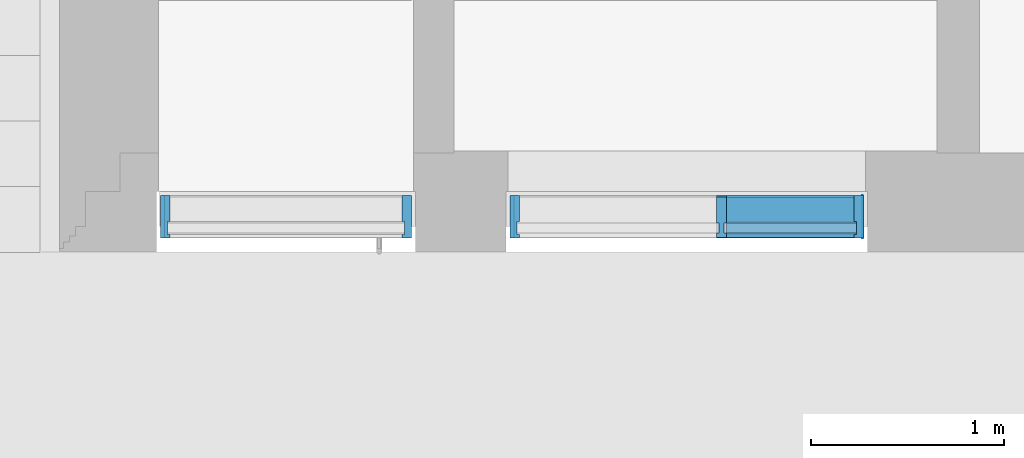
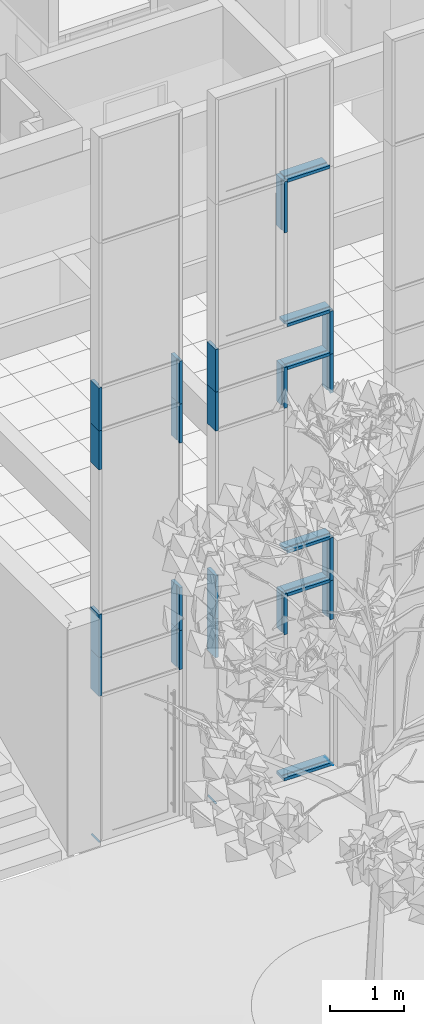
# One storey, part 29 of 246: 28 members, 2 elements without a shape of their own.
"""IFC2X3 building model written with IfcOpenShell, lengths in millimetres."""

import ifcopenshell
import ifcopenshell.guid

model = None  # the IFC model being written
_history = None  # IfcOwnerHistory: only IFC2X3 demands one
_inside = {}  # id of a spatial element -> (the spatial element, [elements in it])
_under = {}  # id of a project, library or spatial element -> (it, [spatial elements below it])
_declared = {}  # id of a project -> (the project, [libraries it declares])
_typed = {}  # id of a type object -> (the type object, [elements of that type])
_made_of = {}  # id of a material, layer set ... -> (it, [elements and type objects made of it])


def new_model(schema):
    """Start an empty IFC model of exactly this schema.

    Asked for "IFC4X3", IfcOpenShell would pick the latest addendum, in which some entities
    have other attributes; the version numbers below select the first issue.
    IFC2X3 requires an IfcOwnerHistory on every rooted entity: one is made here for all.
    """
    global model, _history
    if schema == "IFC4X3":
        model = ifcopenshell.file(schema_version=(4, 3, 0, 0))
    else:
        model = ifcopenshell.file(schema=schema)
    _inside.clear()
    _under.clear()
    _declared.clear()
    _typed.clear()
    _made_of.clear()
    _history = None
    if model.schema == "IFC2X3":
        org = make("IfcOrganization", Name="unknown")
        user = make(
            "IfcPersonAndOrganization",
            ThePerson=make("IfcPerson", FamilyName="unknown"),
            TheOrganization=org,
        )
        app = make(
            "IfcApplication",
            ApplicationDeveloper=org,
            Version="unknown",
            ApplicationFullName="unknown",
            ApplicationIdentifier="unknown",
        )
        _history = make(
            "IfcOwnerHistory",
            OwningUser=user,
            OwningApplication=app,
            ChangeAction="ADDED",
            CreationDate=0,
        )
    return model


def make(cls, **values):
    """One entity of the class cls with the attributes given. An attribute that is None is left unset."""
    return model.create_entity(
        cls, **{name: value for name, value in values.items() if value is not None}
    )


def entity(cls, *values):
    """Any entity or typed value of the class cls, its attributes in the order of the schema. None: left unset."""
    e = model.create_entity(cls)
    for i, value in enumerate(values):
        if value is not None:
            e[i] = value
    return e


def rooted(cls, **values):
    """An entity with a GlobalId (a new one), such as an element, a storey or a relation."""
    return make(cls, GlobalId=ifcopenshell.guid.new(), OwnerHistory=_history, **values)


def si_unit(unit_type, name, prefix=None):
    """IfcSIUnit, for example si_unit("LENGTHUNIT", "METRE", prefix="MILLI")."""
    return make("IfcSIUnit", UnitType=unit_type, Prefix=prefix, Name=name)


def converted_unit(unit_type, name, factor, base, dimensions=None, offset=None):
    """IfcConversionBasedUnit, such as the inch: factor (a typed value) times the base unit."""
    return make(
        "IfcConversionBasedUnit"
        if offset is None
        else "IfcConversionBasedUnitWithOffset",
        ConversionOffset=offset,
        Dimensions=None
        if dimensions is None
        else entity("IfcDimensionalExponents", *dimensions),
        UnitType=unit_type,
        Name=name,
        ConversionFactor=make(
            "IfcMeasureWithUnit", ValueComponent=factor, UnitComponent=base
        ),
    )


def derived_unit(unit_type, elements):
    """IfcDerivedUnit: a product of units, each with its exponent."""
    return make(
        "IfcDerivedUnit",
        Elements=[
            make("IfcDerivedUnitElement", Unit=unit, Exponent=power)
            for unit, power in elements
        ],
        UnitType=unit_type,
    )


def money_unit(currency):
    """IfcMonetaryUnit."""
    return make("IfcMonetaryUnit", Currency=currency)


def assignment(units):
    """IfcUnitAssignment: the units of a project."""
    return None if units is None else make("IfcUnitAssignment", Units=units)


def point(xyz):
    """IfcCartesianPoint."""
    return None if xyz is None else make("IfcCartesianPoint", Coordinates=xyz)


def direction(xyz):
    """IfcDirection."""
    return None if xyz is None else make("IfcDirection", DirectionRatios=xyz)


def frame(location, z_axis=None, x_axis=None):
    """IfcAxis2Placement3D, a coordinate frame: its origin and axes. An axis left out is left unset."""
    return make(
        "IfcAxis2Placement3D",
        Location=point(location),
        Axis=direction(z_axis),
        RefDirection=direction(x_axis),
    )


def origin_with_axes():
    """The frame at (0, 0, 0) with the z axis (0, 0, 1) and the x axis (1, 0, 0) written out."""
    return frame((0.0, 0.0, 0.0), z_axis=(0.0, 0.0, 1.0), x_axis=(1.0, 0.0, 0.0))


def place(relative_to, where):
    """IfcLocalPlacement: puts the frame where relative to a parent placement (None: the world)."""
    return make(
        "IfcLocalPlacement", PlacementRelTo=relative_to, RelativePlacement=where
    )


def context(
    kind, dimensions, precision=None, world=None, true_north=None, identifier=None
):
    """IfcGeometricRepresentationContext, for example the 3D "Model" context."""
    return make(
        "IfcGeometricRepresentationContext",
        ContextIdentifier=identifier,
        ContextType=kind,
        CoordinateSpaceDimension=dimensions,
        Precision=precision,
        WorldCoordinateSystem=world,
        TrueNorth=true_north,
    )


def subcontext(parent, identifier, kind, view, scale=None):
    """IfcGeometricRepresentationSubContext, for example "Body" below "Model"."""
    return make(
        "IfcGeometricRepresentationSubContext",
        ContextIdentifier=identifier,
        ContextType=kind,
        ParentContext=parent,
        TargetScale=scale,
        TargetView=view,
    )


def project(units=None, contexts=None):
    """IfcProject with its units and contexts."""
    return rooted(
        "IfcProject",
        Name="project",
        RepresentationContexts=contexts,
        UnitsInContext=assignment(units),
    )


def spatial(cls, under=None, at=None, **own):
    """A site, building, storey or space (cls), placed at a placement, below another one or the project."""
    s = rooted(cls, ObjectPlacement=at, **own)
    if under is not None:
        _under.setdefault(under.id(), (under, []))[1].append(s)
    return s


def faces_of(points, faces, orient=None, outer=None):
    """IfcFace entities. A face is a list of loops; a loop is a list of indices into points, from 0.

    orient and outer hold one flag for each loop. By default every Orientation is true, the
    first loop of a face is its IfcFaceOuterBound and the others are IfcFaceBound.
    """
    made = []
    for i, loops in enumerate(faces):
        bounds = []
        for j, loop in enumerate(loops):
            is_outer = j == 0 if outer is None else outer[i][j]
            bounds.append(
                make(
                    "IfcFaceOuterBound" if is_outer else "IfcFaceBound",
                    Bound=make("IfcPolyLoop", Polygon=[points[k] for k in loop]),
                    Orientation=True if orient is None else orient[i][j],
                )
            )
        made.append(make("IfcFace", Bounds=bounds))
    return made


def faceted_brep(points, faces, orient=None, outer=None, voids=None):
    """IfcFacetedBrep: a solid bounded by flat faces; with voids (closed shells), ...WithVoids."""
    shared = [point(p) for p in points]
    hull = make("IfcClosedShell", CfsFaces=faces_of(shared, faces, orient, outer))
    if voids is None:
        return make("IfcFacetedBrep", Outer=hull)
    return make(
        "IfcFacetedBrepWithVoids",
        Outer=hull,
        Voids=[
            make(cls, CfsFaces=faces_of(shared, fs, o, b)) for cls, fs, o, b in voids
        ],
    )


def shape(context_of_items, identifier, shape_type, items):
    """IfcShapeRepresentation: the items that make up one representation, for example the "Body"."""
    return make(
        "IfcShapeRepresentation",
        ContextOfItems=context_of_items,
        RepresentationIdentifier=identifier,
        RepresentationType=shape_type,
        Items=items,
    )


def source(mapping_origin, context_of_items, identifier, shape_type, items):
    """IfcRepresentationMap: a shape defined once, which mapped items show again and again."""
    return make(
        "IfcRepresentationMap",
        MappingOrigin=mapping_origin,
        MappedRepresentation=shape(context_of_items, identifier, shape_type, items),
    )


def transform(
    local_origin,
    x_axis=None,
    y_axis=None,
    z_axis=None,
    scale=None,
    scale2=None,
    scale3=None,
    uniform=True,
):
    """IfcCartesianTransformationOperator3D, or its non-uniform kind. x_axis, y_axis, z_axis: its Axis1, 2, 3."""
    if uniform:
        return make(
            "IfcCartesianTransformationOperator3D",
            Axis1=direction(x_axis),
            Axis2=direction(y_axis),
            LocalOrigin=point(local_origin),
            Scale=scale,
            Axis3=direction(z_axis),
        )
    return make(
        "IfcCartesianTransformationOperator3DnonUniform",
        Axis1=direction(x_axis),
        Axis2=direction(y_axis),
        LocalOrigin=point(local_origin),
        Scale=scale,
        Axis3=direction(z_axis),
        Scale2=scale2,
        Scale3=scale3,
    )


def mapped(mapping_source, mapping_target):
    """IfcMappedItem: shows the shape of a source again, moved by a transform."""
    return make(
        "IfcMappedItem", MappingSource=mapping_source, MappingTarget=mapping_target
    )


def material(Name=None, Category=None):
    """IfcMaterial."""
    return make("IfcMaterial", Name=Name, Category=Category)


def made_of(thing, what):
    """Note that an element or type object is made of a material, layer set ...; save() writes the relation."""
    if what is not None:
        _made_of.setdefault(what.id(), (what, []))[1].append(thing)
    return thing


def type_object(cls, material=None, **own):
    """A type object (cls), such as IfcWallType, which elements share."""
    return made_of(rooted(cls, **own), material)


def element(
    cls,
    number,
    at=None,
    inside=None,
    cuts=None,
    type_object=None,
    material=None,
    context=None,
    identifier="Body",
    shape_type=None,
    held_by="IfcProductDefinitionShape",
    body=None,
    shapes=None,
    **own,
):
    """One element of the class cls, such as IfcWall. Its Tag is "e" and its number.

    at: its placement. inside: the storey or other place that contains it. cuts: it is an
    opening in that element (IfcRelVoidsElement). A single representation is given by context,
    identifier, shape_type and body (its items); several are given by shapes. held_by: the class
    of the entity that holds the representations. save() writes the other relations.
    """
    e = rooted(cls, Tag="e%d" % number, ObjectPlacement=at, **own)
    if body is not None:
        shapes = [shape(context, identifier, shape_type, body)]
    if shapes is not None:
        e.Representation = make(held_by, Representations=shapes)
    if inside is not None:
        _inside.setdefault(inside.id(), (inside, []))[1].append(e)
    if cuts is not None:
        rooted(
            "IfcRelVoidsElement", RelatingBuildingElement=cuts, RelatedOpeningElement=e
        )
    if type_object is not None:
        _typed.setdefault(type_object.id(), (type_object, []))[1].append(e)
    return made_of(e, material)


def aggregate(whole, parts):
    """IfcRelAggregates: a whole, such as a stair, and the parts it consists of."""
    return rooted("IfcRelAggregates", RelatingObject=whole, RelatedObjects=parts)


def save(model, path):
    """Write the relations noted so far, then the file.

    IfcRelAggregates (storeys below a building ...), IfcRelContainedInSpatialStructure (elements
    in a storey), IfcRelDefinesByType, IfcRelAssociatesMaterial and IfcRelDeclares: one each for
    every whole, place, type object, material and project.
    """
    for whole, parts in _under.values():
        aggregate(whole, parts)
    for where, things in _inside.values():
        rooted(
            "IfcRelContainedInSpatialStructure",
            RelatedElements=things,
            RelatingStructure=where,
        )
    for kind, things in _typed.values():
        rooted("IfcRelDefinesByType", RelatedObjects=things, RelatingType=kind)
    for what, things in _made_of.values():
        rooted("IfcRelAssociatesMaterial", RelatedObjects=things, RelatingMaterial=what)
    for by, libraries in _declared.values():
        rooted("IfcRelDeclares", RelatingContext=by, RelatedDefinitions=libraries)
    model.write(path)


model = new_model("IFC2X3")

# Units and contexts
model_context = context("Model", 3, precision=0.01, world=origin_with_axes(), true_north=direction((0.0, 1.0)))
body_context = subcontext(model_context, "Body", "Model", "MODEL_VIEW")
ifc_project = project(units=[si_unit("LENGTHUNIT", "METRE", prefix="MILLI"), si_unit("AREAUNIT", "SQUARE_METRE"), si_unit("VOLUMEUNIT", "CUBIC_METRE"), converted_unit("PLANEANGLEUNIT", "DEGREE", entity("IfcPlaneAngleMeasure", 0.0174532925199), si_unit("PLANEANGLEUNIT", "RADIAN"), dimensions=[0, 0, 0, 0, 0, 0, 0]), si_unit("SOLIDANGLEUNIT", "STERADIAN"), money_unit("EUR"), converted_unit("TIMEUNIT", "Year", entity("IfcTimeMeasure", 31556926.0), si_unit("TIMEUNIT", "SECOND"), dimensions=[0, 0, 1, 0, 0, 0, 0]), si_unit("MASSUNIT", "GRAM", prefix="KILO"), si_unit("THERMODYNAMICTEMPERATUREUNIT", "DEGREE_CELSIUS"), si_unit("LUMINOUSINTENSITYUNIT", "LUMEN"), si_unit("ENERGYUNIT", "JOULE", prefix="MEGA"), derived_unit("THERMALCONDUCTANCEUNIT", [(si_unit("POWERUNIT", "WATT"), 1), (si_unit("LENGTHUNIT", "METRE"), -1), (si_unit("THERMODYNAMICTEMPERATUREUNIT", "KELVIN"), -1)]), derived_unit("SPECIFICHEATCAPACITYUNIT", [(si_unit("ENERGYUNIT", "JOULE"), 1), (si_unit("MASSUNIT", "GRAM", prefix="KILO"), -1), (si_unit("THERMODYNAMICTEMPERATUREUNIT", "KELVIN"), -1)]), derived_unit("MASSDENSITYUNIT", [(si_unit("MASSUNIT", "GRAM", prefix="KILO"), 1), (si_unit("VOLUMEUNIT", "CUBIC_METRE"), -1)])], contexts=[model_context])

# Site, building, storey
site_placement = place(None, origin_with_axes())
site = spatial("IfcSite", under=ifc_project, at=site_placement, Name="L.Koidula tn 11b", CompositionType="ELEMENT")
building_placement = place(site_placement, origin_with_axes())
building = spatial("IfcBuilding", under=site, at=building_placement, Name="Rakvere Riigigümnaasium", CompositionType="ELEMENT")
storey_placement = place(building_placement, origin_with_axes())
storey = spatial("IfcBuildingStorey", under=building, at=storey_placement, Name="1.korrus 0,00", CompositionType="ELEMENT", Elevation=0.0)

# Curtain wall, members
curtain_wall_type = type_object("IfcCurtainWallType", Name="Curtain Wall Type", PredefinedType="NOTDEFINED")
curtain_wall_1_placement = place(storey_placement, frame((35950.585925, 5111.45334637, -1.61944652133e-05), z_axis=(0.0, 0.0, 1.0), x_axis=(1.0, 0.0, 0.0)))
curtain_wall_1 = element("IfcCurtainWall", 1, at=curtain_wall_1_placement, inside=storey, type_object=curtain_wall_type, Name="KLF-05-1A")
ifc_material = material(Name="Alumiiniumprofiil (RAL 7021)")
member_type_1 = type_object("IfcMemberType", Name="Boundary Frame 50 x 222", PredefinedType="MULLION")
shared_shape_1 = source(origin_with_axes(), body_context, "Body", "Brep", [
    faceted_brep([(37.0, -32.5, 705.000000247), (37.0, 32.5, 705.000000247), (50.0, 32.5, 705.000000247), (50.0, 53.0, 705.000000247), (0.0, 53.0, 705.000000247), (0.0, -169.0, 705.000000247), (50.0, -169.0, 705.000000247), (50.0, -32.5, 705.000000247), (37.0, -32.5, 0.0), (37.0, 32.5, 0.0), (50.0, 32.5, 0.0), (50.0, 53.0, 0.0), (0.0, 53.0, 0.0), (0.0, -169.0, 0.0), (50.0, -169.0, 0.0), (50.0, -32.5, 0.0)], [[[0, 1, 2, 3, 4, 5, 6, 7]], [[1, 0, 8, 9]], [[10, 2, 1, 9]], [[2, 10, 11, 3]], [[12, 4, 3, 11]], [[13, 5, 4, 12]], [[14, 6, 5, 13]], [[15, 7, 6, 14]], [[0, 7, 15, 8]], [[8, 15, 14, 13, 12, 11, 10, 9]]]),
])
member_1_placement = place(curtain_wall_1_placement, frame((859.6355553, 0.0, 6760.0), z_axis=(6.87354954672e-08, 0.0, 1.0), x_axis=(-1.0, 0.0, 6.87354954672e-08)))
member_1 = element("IfcMember", 2, at=member_1_placement, type_object=member_type_1, material=ifc_material, Name="KLF-05-4A-Profiilid", ObjectType="MULLION", context=body_context, shape_type="MappedRepresentation", body=[
    mapped(shared_shape_1, transform((0.0, 0.0, 0.0))),
])
member_2_placement = place(curtain_wall_1_placement, frame((859.6355553, 0.0, 3040.0), z_axis=(0.0, 0.0, 1.0), x_axis=(-1.0, 0.0, 0.0)))
member_2 = element("IfcMember", 3, at=member_2_placement, type_object=member_type_1, material=ifc_material, Name="KLF-05-1A-Profiilid", ObjectType="MULLION", context=body_context, shape_type="MappedRepresentation", body=[
    mapped(shared_shape_1, transform((0.0, 0.0, 0.0))),
])

curtain_wall_2_placement = place(storey_placement, frame((38273.9956035, 5111.45334637, -8.09717250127e-06), z_axis=(0.0, 0.0, 1.0), x_axis=(1.0, 0.0, 0.0)))
curtain_wall_2 = element("IfcCurtainWall", 4, at=curtain_wall_2_placement, inside=storey, type_object=curtain_wall_type, Name="KLF-05-2A")
member_3_placement = place(curtain_wall_2_placement, frame((876.000206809, 0.0, 6760.0), z_axis=(0.0, 0.0, 1.0), x_axis=(-1.0, 0.0, 0.0)))
member_3 = element("IfcMember", 5, at=member_3_placement, type_object=member_type_1, material=ifc_material, Name="KLF-05-7A-Profiilid", ObjectType="MULLION", context=body_context, shape_type="MappedRepresentation", body=[
    mapped(shared_shape_1, transform((0.0, 0.0, 0.0))),
])
member_4_placement = place(curtain_wall_2_placement, frame((876.000206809, 0.0, 3040.0), z_axis=(0.0, 0.0, 1.0), x_axis=(-1.0, 0.0, 0.0)))
member_4 = element("IfcMember", 6, at=member_4_placement, type_object=member_type_1, material=ifc_material, Name="KLF-05-4A-Profiilid", ObjectType="MULLION", context=body_context, shape_type="MappedRepresentation", body=[
    mapped(shared_shape_1, transform((0.0, 0.0, 0.0))),
])

# Member
shared_shape_2 = source(origin_with_axes(), body_context, "Body", "Brep", [
    faceted_brep([(37.0, -32.5, 640.0), (37.0, 32.5, 640.0), (50.0, 32.5, 640.0), (50.0, 53.0, 640.0), (0.0, 53.0, 640.0), (0.0, -169.0, 640.0), (50.0, -169.0, 640.0), (50.0, -32.5, 640.0), (37.0, -32.5, 0.0), (37.0, 32.5, 0.0), (50.0, 32.5, 0.0), (50.0, 53.0, 0.0), (0.0, 53.0, 0.0), (0.0, -169.0, 0.0), (50.0, -169.0, 0.0), (50.0, -32.5, 0.0)], [[[0, 1, 2, 3, 4, 5, 6, 7]], [[1, 0, 8, 9]], [[10, 2, 1, 9]], [[2, 10, 11, 3]], [[12, 4, 3, 11]], [[13, 5, 4, 12]], [[14, 6, 5, 13]], [[15, 7, 6, 14]], [[0, 7, 15, 8]], [[8, 15, 14, 13, 12, 11, 10, 9]]]),
])
member_5_placement = place(curtain_wall_1_placement, frame((859.6355553, 0.0, 6120.0), z_axis=(0.0, 0.0, 1.0), x_axis=(-1.0, 0.0, 0.0)))
member_5 = element("IfcMember", 7, at=member_5_placement, type_object=member_type_1, material=ifc_material, Name="KLF-05-3A-Profiilid", ObjectType="MULLION", context=body_context, shape_type="MappedRepresentation", body=[
    mapped(shared_shape_2, transform((0.0, 0.0, 0.0))),
])

member_6_placement = place(curtain_wall_1_placement, frame((859.6355553, 0.0, 2400.0), z_axis=(0.0, 0.0, 1.0), x_axis=(-1.0, 0.0, 0.0)))
member_6 = element("IfcMember", 8, at=member_6_placement, type_object=member_type_1, material=ifc_material, Name="KLF-05-0A-Profiilid", ObjectType="MULLION", context=body_context, shape_type="MappedRepresentation", body=[
    mapped(shared_shape_2, transform((0.0, 0.0, 0.0))),
])

member_7_placement = place(curtain_wall_2_placement, frame((876.000206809, 0.0, 6120.0), z_axis=(0.0, 0.0, 1.0), x_axis=(-1.0, 0.0, 0.0)))
member_7 = element("IfcMember", 9, at=member_7_placement, type_object=member_type_1, material=ifc_material, Name="KLF-05-6A-Profiilid", ObjectType="MULLION", context=body_context, shape_type="MappedRepresentation", body=[
    mapped(shared_shape_2, transform((0.0, 0.0, 0.0))),
])

member_8_placement = place(curtain_wall_2_placement, frame((876.000206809, 0.0, 2400.0), z_axis=(0.0, 0.0, 1.0), x_axis=(-1.0, 0.0, 0.0)))
member_8 = element("IfcMember", 10, at=member_8_placement, type_object=member_type_1, material=ifc_material, Name="KLF-05-3A-Profiilid", ObjectType="MULLION", context=body_context, shape_type="MappedRepresentation", body=[
    mapped(shared_shape_2, transform((0.0, 0.0, 0.0))),
])

shared_shape_3 = source(origin_with_axes(), body_context, "Body", "Brep", [
    faceted_brep([(-37.0, -32.5, 705.0), (-50.0, -32.5, 705.0), (-50.0, -169.0, 705.0), (0.0, -169.0, 705.0), (0.0, 53.0, 705.0), (-50.0, 53.0, 705.0), (-50.0, 32.5, 705.0), (-37.0, 32.5, 705.0), (-37.0, -32.5, 0.0), (-50.0, -32.5, 0.0), (-50.0, -169.0, 0.0), (0.0, -169.0, 0.0), (0.0, 53.0, 0.0), (-50.0, 53.0, 0.0), (-50.0, 32.5, 0.0), (-37.0, 32.5, 0.0)], [[[0, 1, 2, 3, 4, 5, 6, 7]], [[0, 8, 9, 1]], [[9, 10, 2, 1]], [[10, 11, 3, 2]], [[11, 12, 4, 3]], [[12, 13, 5, 4]], [[6, 5, 13, 14]], [[14, 15, 7, 6]], [[7, 15, 8, 0]], [[8, 15, 14, 13, 12, 11, 10, 9]]]),
])
member_9_placement = place(curtain_wall_1_placement, frame((-440.585924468, 0.0, 6760.0), z_axis=(0.0, 0.0, 1.0), x_axis=(-1.0, 0.0, 0.0)))
member_9 = element("IfcMember", 11, at=member_9_placement, type_object=member_type_1, material=ifc_material, Name="KLF-05-0A-Profiilid", ObjectType="MULLION", context=body_context, shape_type="MappedRepresentation", body=[
    mapped(shared_shape_3, transform((0.0, 0.0, 0.0))),
])

member_10_placement = place(curtain_wall_1_placement, frame((-440.585924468, 0.0, 3040.0), z_axis=(0.0, 0.0, 1.0), x_axis=(-1.0, 0.0, 0.0)))
member_10 = element("IfcMember", 12, at=member_10_placement, type_object=member_type_1, material=ifc_material, Name="KLF-05-3A-Profiilid", ObjectType="MULLION", context=body_context, shape_type="MappedRepresentation", body=[
    mapped(shared_shape_3, transform((0.0, 0.0, 0.0))),
])

member_11_placement = place(curtain_wall_2_placement, frame((-954.000087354, 0.0, 3040.0), z_axis=(0.0, 0.0, 1.0), x_axis=(-1.0, 0.0, 0.0)))
member_11 = element("IfcMember", 13, at=member_11_placement, type_object=member_type_1, material=ifc_material, Name="KLF-05-7A-Profiilid", ObjectType="MULLION", context=body_context, shape_type="MappedRepresentation", body=[
    mapped(shared_shape_3, transform((0.0, 0.0, 0.0))),
])

member_12_placement = place(curtain_wall_2_placement, frame((-954.000087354, 0.0, 6760.0), z_axis=(0.0, 0.0, 1.0), x_axis=(-1.0, 0.0, 0.0)))
member_12 = element("IfcMember", 14, at=member_12_placement, type_object=member_type_1, material=ifc_material, Name="KLF-05-4A-Profiilid", ObjectType="MULLION", context=body_context, shape_type="MappedRepresentation", body=[
    mapped(shared_shape_3, transform((0.0, 0.0, 0.0))),
])

shared_shape_4 = source(origin_with_axes(), body_context, "Body", "Brep", [
    faceted_brep([(-37.0, -32.5, 640.0), (-50.0, -32.5, 640.0), (-50.0, -169.0, 640.0), (0.0, -169.0, 640.0), (0.0, 53.0, 640.0), (-50.0, 53.0, 640.0), (-50.0, 32.5, 640.0), (-37.0, 32.5, 640.0), (-37.0, -32.5, 0.0), (-50.0, -32.5, 0.0), (-50.0, -169.0, 0.0), (0.0, -169.0, 0.0), (0.0, 53.0, 0.0), (-50.0, 53.0, 0.0), (-50.0, 32.5, 0.0), (-37.0, 32.5, 0.0)], [[[0, 1, 2, 3, 4, 5, 6, 7]], [[0, 8, 9, 1]], [[9, 10, 2, 1]], [[10, 11, 3, 2]], [[11, 12, 4, 3]], [[12, 13, 5, 4]], [[6, 5, 13, 14]], [[14, 15, 7, 6]], [[7, 15, 8, 0]], [[8, 15, 14, 13, 12, 11, 10, 9]]]),
])
member_13_placement = place(curtain_wall_1_placement, frame((-440.585924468, 0.0, 6120.0), z_axis=(0.0, 0.0, 1.0), x_axis=(-1.0, 0.0, 0.0)))
member_13 = element("IfcMember", 15, at=member_13_placement, type_object=member_type_1, material=ifc_material, Name="KLF-05-1A-Profiilid", ObjectType="MULLION", context=body_context, shape_type="MappedRepresentation", body=[
    mapped(shared_shape_4, transform((0.0, 0.0, 0.0))),
])

member_14_placement = place(curtain_wall_1_placement, frame((-440.585924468, 0.0, 2400.0), z_axis=(0.0, 0.0, 1.0), x_axis=(-1.0, 0.0, 0.0)))
member_14 = element("IfcMember", 16, at=member_14_placement, type_object=member_type_1, material=ifc_material, Name="KLF-05-4A-Profiilid", ObjectType="MULLION", context=body_context, shape_type="MappedRepresentation", body=[
    mapped(shared_shape_4, transform((0.0, 0.0, 0.0))),
])

member_15_placement = place(curtain_wall_2_placement, frame((-954.000087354, 0.0, 2400.0), z_axis=(0.0, 0.0, 1.0), x_axis=(-1.0, 0.0, 0.0)))
member_15 = element("IfcMember", 17, at=member_15_placement, type_object=member_type_1, material=ifc_material, Name="KLF-05-8A-Profiilid", ObjectType="MULLION", context=body_context, shape_type="MappedRepresentation", body=[
    mapped(shared_shape_4, transform((0.0, 0.0, 0.0))),
])

member_16_placement = place(curtain_wall_2_placement, frame((-954.000087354, 0.0, 6120.0), z_axis=(0.0, 0.0, 1.0), x_axis=(-1.0, 0.0, 0.0)))
member_16 = element("IfcMember", 18, at=member_16_placement, type_object=member_type_1, material=ifc_material, Name="KLF-05-5A-Profiilid", ObjectType="MULLION", context=body_context, shape_type="MappedRepresentation", body=[
    mapped(shared_shape_4, transform((0.0, 0.0, 0.0))),
])

member_type_2 = type_object("IfcMemberType", Name="50 x 208", PredefinedType="MULLION")
shared_shape_5 = source(origin_with_axes(), body_context, "Body", "Brep", [
    faceted_brep([(-12.0, -27.0, 730.000256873), (-25.0, -27.0, 730.000256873), (-25.0, -160.0, 730.000256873), (25.0, -160.0, 730.000256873), (25.0, -27.0, 730.000256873), (12.0, -27.0, 730.000256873), (12.0, 27.0, 730.000256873), (25.0, 27.0, 730.000256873), (25.0, 48.0, 730.000256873), (-25.0, 48.0, 730.000256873), (-25.0, 27.0, 730.000256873), (-12.0, 27.0, 730.000256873), (-12.0, -27.0, 25.0), (-25.0, -27.0, 25.0), (-25.0, -160.0, 25.0), (25.0, -160.0, 25.0), (25.0, -27.0, 25.0), (12.0, -27.0, 25.0), (12.0, 27.0, 25.0), (25.0, 27.0, 25.0), (25.0, 48.0, 25.0), (-25.0, 48.0, 25.0), (-25.0, 27.0, 25.0), (-12.0, 27.0, 25.0)], [[[0, 1, 2, 3, 4, 5, 6, 7, 8, 9, 10, 11]], [[1, 0, 12, 13]], [[1, 13, 14, 2]], [[2, 14, 15, 3]], [[4, 3, 15, 16]], [[4, 16, 17, 5]], [[5, 17, 18, 6]], [[7, 6, 18, 19]], [[19, 20, 8, 7]], [[8, 20, 21, 9]], [[22, 10, 9, 21]], [[11, 10, 22, 23]], [[0, 11, 23, 12]], [[23, 22, 21, 20, 19, 18, 17, 16, 15, 14, 13, 12]]]),
])
member_17_placement = place(curtain_wall_2_placement, frame((140.999912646, 0.0, 6760.0), z_axis=(1.0, 0.0, 0.0), x_axis=(0.0, 0.0, 1.0)))
member_17 = element("IfcMember", 19, at=member_17_placement, type_object=member_type_2, material=ifc_material, Name="KLF-33", ObjectType="MULLION", context=body_context, shape_type="MappedRepresentation", body=[
    mapped(shared_shape_5, transform((0.0, 0.0, 0.0))),
])

member_18_placement = place(curtain_wall_2_placement, frame((140.999912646, 0.0, 3745.0), z_axis=(1.0, 0.0, 0.0), x_axis=(0.0, 0.0, 1.0)))
member_18 = element("IfcMember", 20, at=member_18_placement, type_object=member_type_2, material=ifc_material, Name="KLF-08", ObjectType="MULLION", context=body_context, shape_type="MappedRepresentation", body=[
    mapped(shared_shape_5, transform((0.0, 0.0, 0.0))),
])

member_19_placement = place(curtain_wall_2_placement, frame((140.999912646, 0.0, 7465.0), z_axis=(1.0, 0.0, 0.0), x_axis=(0.0, 0.0, 1.0)))
member_19 = element("IfcMember", 21, at=member_19_placement, type_object=member_type_2, material=ifc_material, Name="KLF-57", ObjectType="MULLION", context=body_context, shape_type="MappedRepresentation", body=[
    mapped(shared_shape_5, transform((0.0, 0.0, 0.0))),
])

member_20_placement = place(curtain_wall_2_placement, frame((140.999912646, 0.0, 3040.0), z_axis=(1.0, 0.0, 0.0), x_axis=(0.0, 0.0, 1.0)))
member_20 = element("IfcMember", 22, at=member_20_placement, type_object=member_type_2, material=ifc_material, Name="KLF-09", ObjectType="MULLION", context=body_context, shape_type="MappedRepresentation", body=[
    mapped(shared_shape_5, transform((0.0, 0.0, 0.0))),
])

shared_shape_6 = source(origin_with_axes(), body_context, "Body", "Brep", [
    faceted_brep([(-12.0, -27.0, 665.0), (-25.0, -27.0, 665.0), (-25.0, -160.0, 665.0), (25.0, -160.0, 665.0), (25.0, -27.0, 665.0), (12.0, -27.0, 665.0), (12.0, 27.0, 665.0), (25.0, 27.0, 665.0), (25.0, 48.0, 665.0), (-25.0, 48.0, 665.0), (-25.0, 27.0, 665.0), (-12.0, 27.0, 665.0), (-12.0, -27.0, 0.0), (-25.0, -27.0, 0.0), (-25.0, -160.0, 0.0), (25.0, -160.0, 0.0), (25.0, -27.0, 0.0), (12.0, -27.0, 0.0), (12.0, 27.0, 0.0), (25.0, 27.0, 0.0), (25.0, 48.0, 0.0), (-25.0, 48.0, 0.0), (-25.0, 27.0, 0.0), (-12.0, 27.0, 0.0)], [[[0, 1, 2, 3, 4, 5, 6, 7, 8, 9, 10, 11]], [[1, 0, 12, 13]], [[1, 13, 14, 2]], [[3, 2, 14, 15]], [[4, 3, 15, 16]], [[4, 16, 17, 5]], [[5, 17, 18, 6]], [[7, 6, 18, 19]], [[19, 20, 8, 7]], [[9, 8, 20, 21]], [[22, 10, 9, 21]], [[11, 10, 22, 23]], [[0, 11, 23, 12]], [[23, 22, 21, 20, 19, 18, 17, 16, 15, 14, 13, 12]]]),
])
member_21_placement = place(curtain_wall_2_placement, frame((140.999912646, 0.0, 2400.0), z_axis=(0.0, 0.0, 1.0), x_axis=(-1.0, 0.0, 0.0)))
member_21 = element("IfcMember", 23, at=member_21_placement, type_object=member_type_2, material=ifc_material, Name="KLF-41", ObjectType="MULLION", context=body_context, shape_type="MappedRepresentation", body=[
    mapped(shared_shape_6, transform((0.0, 0.0, 0.0))),
])

member_22_placement = place(curtain_wall_2_placement, frame((140.999912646, 0.0, 6120.0), z_axis=(0.0, 0.0, 1.0), x_axis=(-1.0, 0.0, 0.0)))
member_22 = element("IfcMember", 24, at=member_22_placement, type_object=member_type_2, material=ifc_material, Name="KLF-96", ObjectType="MULLION", context=body_context, shape_type="MappedRepresentation", body=[
    mapped(shared_shape_6, transform((0.0, 0.0, 0.0))),
])

member_type_3 = type_object("IfcMemberType", Name="Mullion Frame 50 x 222", PredefinedType="MULLION")
shared_shape_7 = source(origin_with_axes(), body_context, "Body", "Brep", [
    faceted_brep([(-12.0, -32.5, 840.0), (-25.0, -32.5, 840.0), (-25.0, -169.0, 840.0), (25.0, -169.0, 840.0), (25.0, -32.5, 840.0), (12.0, -32.5, 840.0), (12.0, 32.5, 840.0), (25.0, 32.5, 840.0), (25.0, 53.0, 840.0), (-25.0, 53.0, 840.0), (-25.0, 32.5, 840.0), (-12.0, 32.5, 840.0), (-12.0, -32.5, 0.0), (-25.0, -32.5, 0.0), (-25.0, -169.0, 0.0), (25.0, -169.0, 0.0), (25.0, -32.5, 0.0), (12.0, -32.5, 0.0), (12.0, 32.5, 0.0), (25.0, 32.5, 0.0), (25.0, 53.0, 0.0), (-25.0, 53.0, 0.0), (-25.0, 32.5, 0.0), (-12.0, 32.5, 0.0)], [[[0, 1, 2, 3, 4, 5, 6, 7, 8, 9, 10, 11]], [[1, 0, 12, 13]], [[1, 13, 14, 2]], [[3, 2, 14, 15]], [[4, 3, 15, 16]], [[4, 16, 17, 5]], [[5, 17, 18, 6]], [[7, 6, 18, 19]], [[19, 20, 8, 7]], [[9, 8, 20, 21]], [[22, 10, 9, 21]], [[11, 10, 22, 23]], [[0, 11, 23, 12]], [[23, 22, 21, 20, 19, 18, 17, 16, 15, 14, 13, 12]]]),
])
member_23_placement = place(curtain_wall_2_placement, frame((140.999912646, 0.0, 9000.0), z_axis=(0.0, 0.0, 1.0), x_axis=(-1.0, 0.0, 0.0)))
member_23 = element("IfcMember", 25, at=member_23_placement, type_object=member_type_3, material=ifc_material, Name="KLF-05-3A-Profiilid", ObjectType="MULLION", context=body_context, shape_type="MappedRepresentation", body=[
    mapped(shared_shape_7, transform((0.0, 0.0, 0.0))),
])

shared_shape_8 = source(origin_with_axes(), body_context, "Body", "Brep", [
    faceted_brep([(37.0, -27.0, 730.000256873), (37.0, 27.0, 730.000256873), (50.0, 27.0, 730.000256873), (50.0, 48.0, 730.000256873), (0.0, 48.0, 730.000256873), (0.0, -160.0, 730.000256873), (50.0, -160.0, 730.000256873), (50.0, -27.0, 730.000256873), (37.0, -27.0, -25.0), (37.0, 27.0, -25.0), (50.0, 27.0, -25.0), (50.0, 48.0, -25.0), (0.0, 48.0, -25.0), (0.0, -160.0, -25.0), (50.0, -160.0, -25.0), (50.0, -27.0, -25.0)], [[[0, 1, 2, 3, 4, 5, 6, 7]], [[1, 0, 8, 9]], [[10, 2, 1, 9]], [[2, 10, 11, 3]], [[12, 4, 3, 11]], [[13, 5, 4, 12]], [[14, 6, 5, 13]], [[15, 7, 6, 14]], [[0, 7, 15, 8]], [[8, 15, 14, 13, 12, 11, 10, 9]]]),
])
member_24_placement = place(curtain_wall_2_placement, frame((140.999912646, 0.0, 0.0), z_axis=(1.0, 0.0, 0.0), x_axis=(0.0, 0.0, 1.0)))
member_24 = element("IfcMember", 26, at=member_24_placement, type_object=member_type_2, material=ifc_material, Name="KLF-55", ObjectType="MULLION", context=body_context, shape_type="MappedRepresentation", body=[
    mapped(shared_shape_8, transform((0.0, 0.0, 0.0))),
])

shared_shape_9 = source(origin_with_axes(), body_context, "Body", "Brep", [
    faceted_brep([(0.0, 53.0, 0.0), (0.0, 53.0, 19.999885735), (19.999885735, 53.0, 19.999885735), (0.0, -169.0, 0.0), (0.0, -169.0, 19.999885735), (19.999885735, -169.0, 19.999885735)], [[[0, 1, 2]], [[3, 4, 1, 0]], [[2, 1, 4, 5]], [[2, 5, 3, 0]], [[5, 4, 3]]]),
])
member_25_placement = place(curtain_wall_2_placement, frame((-954.000087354, 0.0, 0.0), z_axis=(1.0, 0.0, 0.0), x_axis=(0.0, 0.0, 1.0)))
member_25 = element("IfcMember", 27, at=member_25_placement, type_object=member_type_1, material=ifc_material, Name="KLF-05-0A-Profiilid", ObjectType="MULLION", context=body_context, shape_type="MappedRepresentation", body=[
    mapped(shared_shape_9, transform((0.0, 0.0, 0.0))),
])

member_type_4 = type_object("IfcMemberType", Name="Transom Frame 50 x 222", PredefinedType="MULLION")
shared_shape_10 = source(origin_with_axes(), body_context, "Body", "Brep", [
    faceted_brep([(-12.0, -32.5, 685.000257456), (-25.0, -32.5, 685.000257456), (-25.0, -169.0, 685.000249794), (25.0, -169.0, 685.000249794), (25.0, -32.5, 685.000257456), (12.0, -32.5, 685.000257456), (12.0, 32.5, 685.000261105), (25.0, 32.5, 685.000261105), (25.0, 53.0, 685.000262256), (-25.0, 53.0, 685.000262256), (-25.0, 32.5, 685.000261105), (-12.0, 32.5, 685.000261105), (-12.0, -32.5, 25.0), (-25.0, -32.5, 25.0), (-25.0, -169.0, 25.0), (25.0, -169.0, 25.0), (25.0, -32.5, 25.0), (12.0, -32.5, 25.0), (12.0, 32.5, 25.0), (25.0, 32.5, 25.0), (25.0, 53.0, 25.0), (-25.0, 53.0, 25.0), (-25.0, 32.5, 25.0), (-12.0, 32.5, 25.0)], [[[0, 1, 2, 3, 4, 5, 6, 7, 8, 9, 10, 11]], [[1, 0, 12, 13]], [[1, 13, 14, 2]], [[2, 14, 15, 3]], [[4, 3, 15, 16]], [[4, 16, 17, 5]], [[5, 17, 18, 6]], [[7, 6, 18, 19]], [[19, 20, 8, 7]], [[8, 20, 21, 9]], [[22, 10, 9, 21]], [[11, 10, 22, 23]], [[0, 11, 23, 12]], [[23, 22, 21, 20, 19, 18, 17, 16, 15, 14, 13, 12]]]),
])
member_26_placement = place(curtain_wall_2_placement, frame((140.999912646, 0.0, 9840.0), z_axis=(1.0, 0.0, 0.0), x_axis=(0.0, 0.0, 1.0)))
member_26 = element("IfcMember", 28, at=member_26_placement, type_object=member_type_4, material=ifc_material, Name="KLF-05-0A-Profiilid", ObjectType="MULLION", context=body_context, shape_type="MappedRepresentation", body=[
    mapped(shared_shape_10, transform((0.0, 0.0, 0.0))),
])

shared_shape_11 = source(origin_with_axes(), body_context, "Body", "Brep", [
    faceted_brep([(5.00003729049, 53.0, 0.0), (0.0, 53.0, 0.0), (0.0, 53.0, 5.00003729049), (5.00003729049, -169.0, 0.0), (0.0, -169.0, 0.0), (0.0, -169.0, 5.00003729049)], [[[0, 1, 2]], [[3, 4, 1, 0]], [[1, 4, 5, 2]], [[0, 2, 5, 3]], [[4, 3, 5]]]),
])
member_27_placement = place(curtain_wall_2_placement, frame((871.000169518, 0.0, 0.0), z_axis=(1.0, 0.0, 0.0), x_axis=(0.0, 0.0, 1.0)))
member_27 = element("IfcMember", 29, at=member_27_placement, type_object=member_type_1, material=ifc_material, Name="KLF-05-1A-Profiilid", ObjectType="MULLION", context=body_context, shape_type="MappedRepresentation", body=[
    mapped(shared_shape_11, transform((0.0, 0.0, 0.0))),
])

aggregate(curtain_wall_2, [member_21, member_17, member_24, member_18, member_19, member_22, member_20, member_23, member_15, member_11, member_16, member_12, member_25, member_7, member_3, member_26, member_4, member_8, member_27])

shared_shape_12 = source(origin_with_axes(), body_context, "Body", "Brep", [
    faceted_brep([(0.0, 53.0, 0.0), (0.0, 53.0, 21.5362936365), (21.5362936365, 53.0, 21.5362936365), (0.0, -169.0, 0.0), (0.0, -169.0, 21.5362936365), (21.5362936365, -169.0, 21.5362936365)], [[[0, 1, 2]], [[3, 4, 1, 0]], [[2, 1, 4, 5]], [[2, 5, 3, 0]], [[5, 4, 3]]]),
])
member_28_placement = place(curtain_wall_1_placement, frame((-440.585924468, 0.0, 0.0), z_axis=(1.0, 0.0, 0.0), x_axis=(0.0, 0.0, 1.0)))
member_28 = element("IfcMember", 30, at=member_28_placement, type_object=member_type_1, material=ifc_material, Name="KLF-05-8A-Profiilid", ObjectType="MULLION", context=body_context, shape_type="MappedRepresentation", body=[
    mapped(shared_shape_12, transform((0.0, 0.0, 0.0))),
])

aggregate(curtain_wall_1, [member_9, member_10, member_28, member_13, member_14, member_1, member_5, member_2, member_6])

save(model, "model.ifc")
